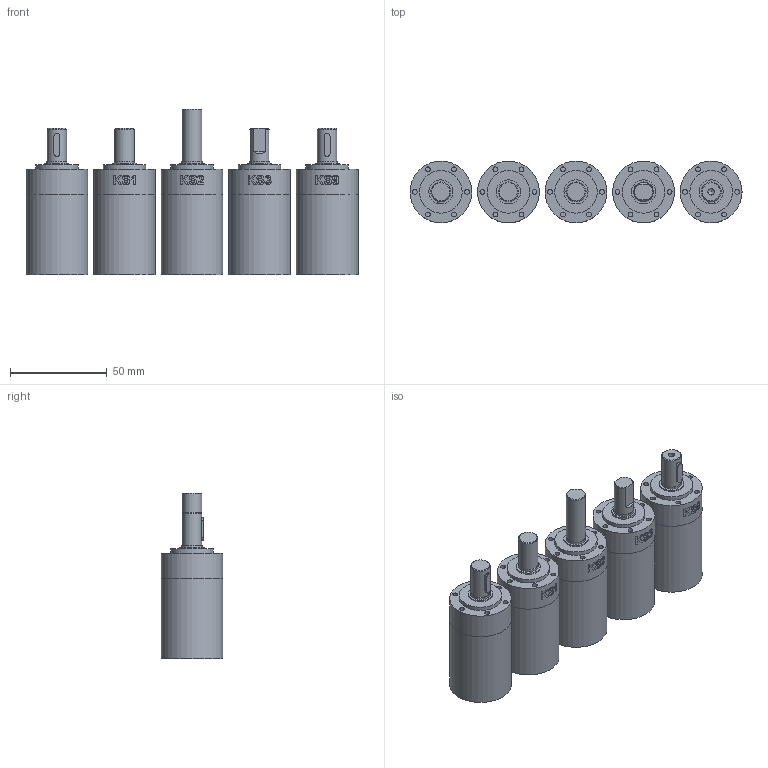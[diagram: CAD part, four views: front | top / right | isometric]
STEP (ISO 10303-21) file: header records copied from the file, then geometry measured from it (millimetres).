
FILE_DESCRIPTION(/* description */ (''),/* implementation_level */ '2;1');
FILE_NAME(/* name */ '32gpt_HT-4stage_standard+KSx.stp',/* time_stamp */ '2025-05-05T14:14:57+02:00',/* author */ ('DR. FRITZ FAULHABER GmbH & Co. KG'),/* organization */ ('DR. FRITZ FAULHABER GmbH & Co. KG'),/* preprocessor_version */ 'ST-DEVELOPER v19.3',/* originating_system */ 'SIEMENS PLM Software NX2212.4000',/* authorisation */ '');
FILE_SCHEMA (('AUTOMOTIVE_DESIGN { 1 0 10303 214 3 1 1 1 }'));
Length unit declared in the file: millimetre
Products named in the file (1): A_objects
Bounding box: 172 x 32 x 85.8 mm (x, y, z)
Volume: 219451.5 mm3; surface area: 43340.4 mm2
Topology: 5 solids, 5 shells, 288 faces, 566 edges, 378 vertices
Faces by surface type: plane 131, cylinder 98, bspline 52, cone 7
Full cylindrical faces by diameter (mm): 2.5 x30, 3.3 x1, 10 x5, 10.4 x5, 12.5 x5, 14.568 x5, 18 x5, 22 x5, 29.8 x5, 31.999 x5, 32 x10
Entity records: 15046 total; most frequent: CARTESIAN_POINT 9097, ORIENTED_EDGE 940, DIRECTION 925, EDGE_CURVE 470, EDGE_LOOP 465, AXIS2_PLACEMENT_3D 432, VERTEX_POINT 370, FACE_BOUND 312
